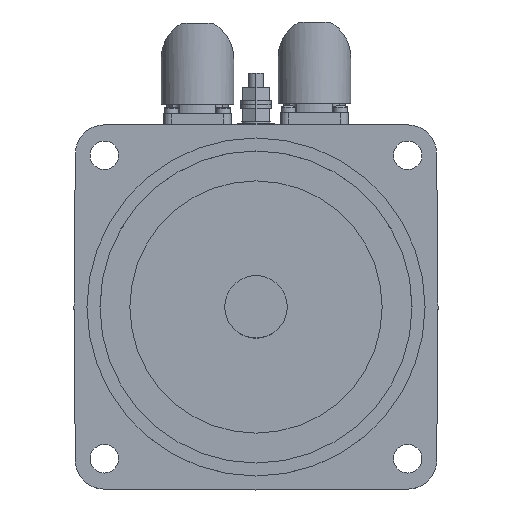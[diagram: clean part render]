
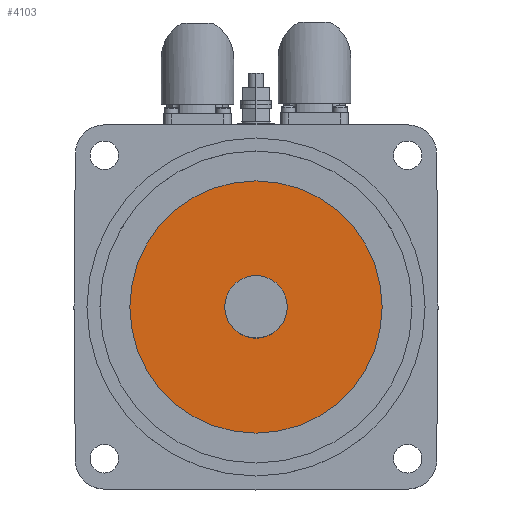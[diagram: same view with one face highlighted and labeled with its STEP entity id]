
A CAD part, top view. The second image highlights one B-rep face of the part: STEP entity #4103.
In plain terms, the highlighted planar face has unit normal (0, 0, 1).
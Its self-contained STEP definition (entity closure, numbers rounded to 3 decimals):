
#1167 = CARTESIAN_POINT ( 'NONE',  ( -12., 0., -4.5 ) ) ;
#1425 = CARTESIAN_POINT ( 'NONE',  ( -48.5, 0., -4.5 ) ) ;
#1443 = CARTESIAN_POINT ( 'NONE',  ( 48.5, 0., -4.5 ) ) ;
#1468 = CARTESIAN_POINT ( 'NONE',  ( 12., 0., -4.5 ) ) ;
#1745 = AXIS2_PLACEMENT_3D ( 'NONE', #5877, #5878, #5879 ) ;
#1748 = AXIS2_PLACEMENT_3D ( 'NONE', #5838, #5857, #5839 ) ;
#1760 = AXIS2_PLACEMENT_3D ( 'NONE', #6377, #6420, #6419 ) ;
#1765 = AXIS2_PLACEMENT_3D ( 'NONE', #6410, #6404, #6403 ) ;
#4103 = ADVANCED_FACE ( 'NONE', ( #9919, #9900 ), #8907, .F. ) ;
#4515 = VERTEX_POINT ( 'NONE', #1468 ) ;
#4525 = VERTEX_POINT ( 'NONE', #1443 ) ;
#4636 = VERTEX_POINT ( 'NONE', #1425 ) ;
#4685 = VERTEX_POINT ( 'NONE', #1167 ) ;
#5838 = CARTESIAN_POINT ( 'NONE',  ( 0., 0., -4.5 ) ) ;
#5839 = DIRECTION ( 'NONE',  ( -1., 0., 0. ) ) ;
#5857 = DIRECTION ( 'NONE',  ( 0., 0., -1. ) ) ;
#5877 = CARTESIAN_POINT ( 'NONE',  ( 0., 0., -4.5 ) ) ;
#5878 = DIRECTION ( 'NONE',  ( 0., 0., 1. ) ) ;
#5879 = DIRECTION ( 'NONE',  ( -1., 0., 0. ) ) ;
#6377 = CARTESIAN_POINT ( 'NONE',  ( 0., 0., -4.5 ) ) ;
#6403 = DIRECTION ( 'NONE',  ( -1., 0., 0. ) ) ;
#6404 = DIRECTION ( 'NONE',  ( 0., 0., 1. ) ) ;
#6410 = CARTESIAN_POINT ( 'NONE',  ( 0., 0., -4.5 ) ) ;
#6419 = DIRECTION ( 'NONE',  ( -1., 0., 0. ) ) ;
#6420 = DIRECTION ( 'NONE',  ( 0., 0., -1. ) ) ;
#7424 = EDGE_LOOP ( 'NONE', ( #7574, #7575 ) ) ;
#7427 = EDGE_LOOP ( 'NONE', ( #7576, #7577 ) ) ;
#7574 = ORIENTED_EDGE ( 'NONE', *, *, #11529, .F. ) ;
#7575 = ORIENTED_EDGE ( 'NONE', *, *, #11552, .F. ) ;
#7576 = ORIENTED_EDGE ( 'NONE', *, *, #11557, .F. ) ;
#7577 = ORIENTED_EDGE ( 'NONE', *, *, #11519, .F. ) ;
#8646 = DIRECTION ( 'NONE',  ( 0., 0., -1. ) ) ;
#8886 = CARTESIAN_POINT ( 'NONE',  ( 0., 48.5, -4.5 ) ) ;
#8907 = PLANE ( 'NONE',  #12854 ) ;
#8977 = DIRECTION ( 'NONE',  ( -1., 0., 0. ) ) ;
#9900 = FACE_BOUND ( 'NONE', #7427, .T. ) ;
#9919 = FACE_OUTER_BOUND ( 'NONE', #7424, .T. ) ;
#11519 = EDGE_CURVE ( 'NONE', #4515, #4685, #13594, .T. ) ;
#11529 = EDGE_CURVE ( 'NONE', #4636, #4525, #13581, .T. ) ;
#11552 = EDGE_CURVE ( 'NONE', #4525, #4636, #13543, .T. ) ;
#11557 = EDGE_CURVE ( 'NONE', #4685, #4515, #13534, .T. ) ;
#12854 = AXIS2_PLACEMENT_3D ( 'NONE', #8886, #8646, #8977 ) ;
#13534 = CIRCLE ( 'NONE', #1745, 12. ) ;
#13543 = CIRCLE ( 'NONE', #1748, 48.5 ) ;
#13581 = CIRCLE ( 'NONE', #1760, 48.5 ) ;
#13594 = CIRCLE ( 'NONE', #1765, 12. ) ;
